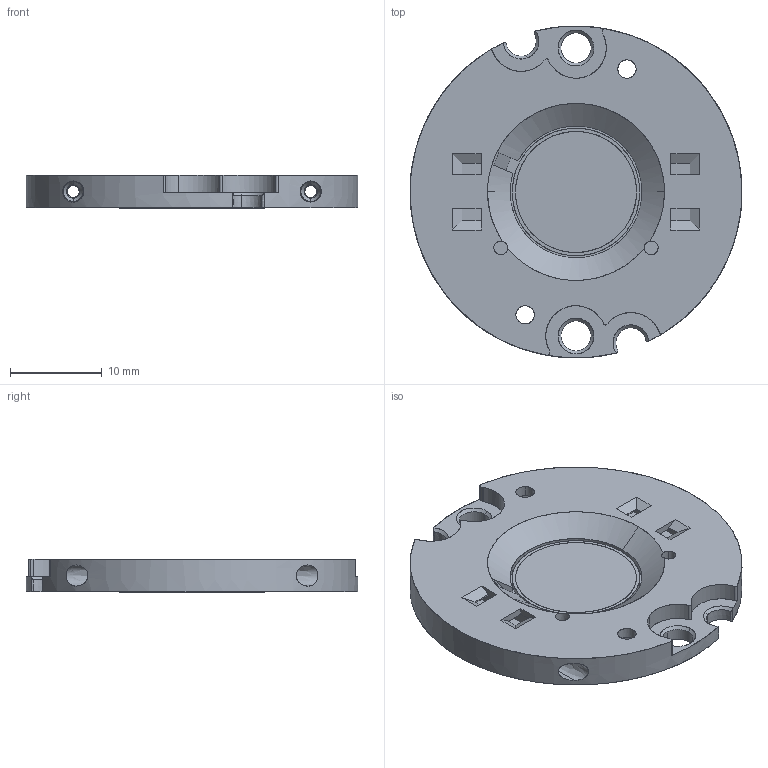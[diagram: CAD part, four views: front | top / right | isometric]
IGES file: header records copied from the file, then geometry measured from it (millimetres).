
Start section: SolidWorks IGES file using analytic representation for surfaces
Global section: file name: C:\Users\Public\Documents\Vero SE Release Customer Files\BJB11\BJB3_11\Bridgelux-VeroSE13-M-IGS-17-000018-RA.IGS; native system: SolidWorks 2016; preprocessor: SolidWorks 2016; author: Brandon; date: 161104.081801; units: millimetre
Bounding box: 36.19 x 36.2 x 3.6 mm (x, y, z)
Surface area: 3602 mm2 (no closed solid volume)
Topology: 0 solids, 0 shells, 260 faces, 2949 edges, 2949 vertices
Faces by surface type: bspline 174, revolution 86
